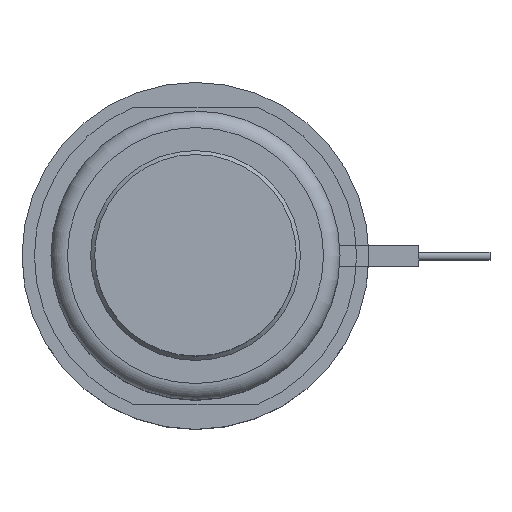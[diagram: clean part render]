
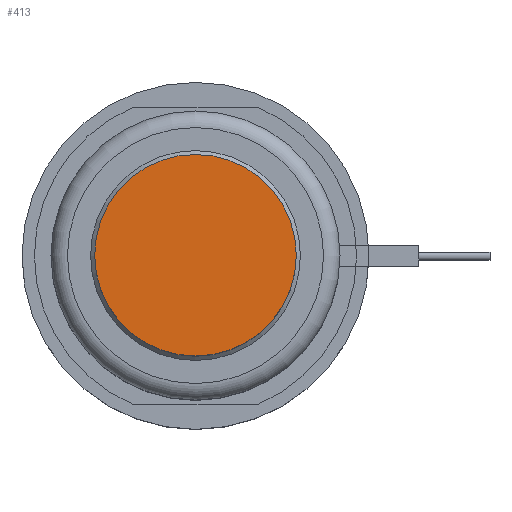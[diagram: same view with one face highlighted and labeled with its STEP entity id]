
A CAD part, top view. The second image highlights one B-rep face of the part: STEP entity #413.
In plain terms, the highlighted planar face has unit normal (0, 0, 1).
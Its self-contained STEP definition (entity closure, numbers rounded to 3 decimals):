
#257=PLANE('',#1399);
#319=FACE_OUTER_BOUND('',#649,.T.);
#413=ADVANCED_FACE('',(#319),#257,.F.);
#649=EDGE_LOOP('',(#881));
#881=ORIENTED_EDGE('',*,*,#1162,.F.);
#1035=VERTEX_POINT('',#2166);
#1162=EDGE_CURVE('',#1035,#1035,#1260,.T.);
#1260=CIRCLE('',#1398,12.2);
#1398=AXIS2_PLACEMENT_3D('',#2165,#1716,#1717);
#1399=AXIS2_PLACEMENT_3D('',#2167,#1718,#1719);
#1716=DIRECTION('',(0.,0.,-1.));
#1717=DIRECTION('',(-1.,0.,0.));
#1718=DIRECTION('',(0.,0.,-1.));
#1719=DIRECTION('',(-1.,0.,0.));
#2165=CARTESIAN_POINT('',(0.,0.,18.));
#2166=CARTESIAN_POINT('',(-12.2,0.,18.));
#2167=CARTESIAN_POINT('',(0.,0.,18.));
